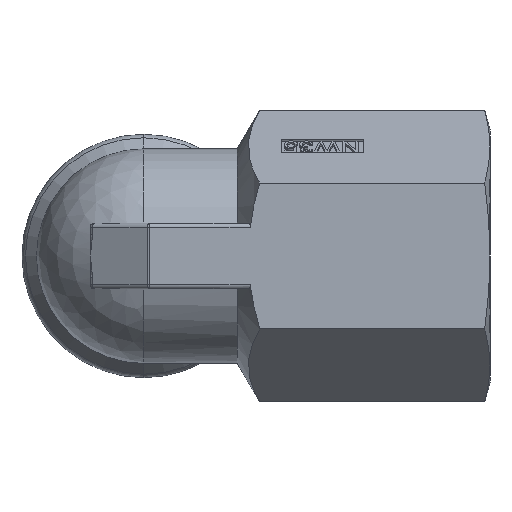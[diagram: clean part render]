
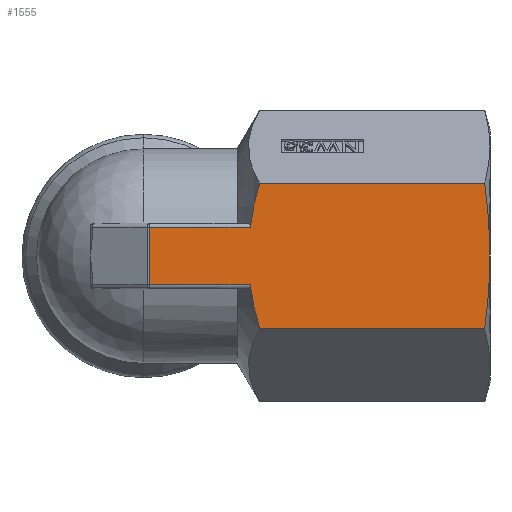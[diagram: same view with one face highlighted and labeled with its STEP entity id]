
A CAD part, left-side view. The second image highlights one B-rep face of the part: STEP entity #1555.
In plain terms, the highlighted planar face has unit normal (-1, 0, 0).
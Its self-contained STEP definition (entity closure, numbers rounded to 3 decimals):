
#4 = CARTESIAN_POINT ( 'NONE',  ( -23., -62.047, 13.279 ) ) ;
#100 = CARTESIAN_POINT ( 'NONE',  ( -23., -20.312, 10.636 ) ) ;
#130 = VERTEX_POINT ( 'NONE', #488 ) ;
#166 = EDGE_CURVE ( 'NONE', #3241, #6302, #4041, .T. ) ;
#351 = CARTESIAN_POINT ( 'NONE',  ( -23., -21.075, -13.279 ) ) ;
#402 = CARTESIAN_POINT ( 'NONE',  ( -23., -1.052, -5.2 ) ) ;
#446 = DIRECTION ( 'NONE',  ( 0., -1., 0. ) ) ;
#488 = CARTESIAN_POINT ( 'NONE',  ( -23., -1.052, 5.2 ) ) ;
#513 = EDGE_CURVE ( 'NONE', #4640, #6480, #2672, .T. ) ;
#590 = CARTESIAN_POINT ( 'NONE',  ( -23., -62.584, -8.852 ) ) ;
#626 = CARTESIAN_POINT ( 'NONE',  ( -23., -63., -2.21 ) ) ;
#710 = VERTEX_POINT ( 'NONE', #1622 ) ;
#712 = CARTESIAN_POINT ( 'NONE',  ( -23., -21.075, 13.279 ) ) ;
#791 = CARTESIAN_POINT ( 'NONE',  ( -23., -21.075, -13.279 ) ) ;
#796 = VERTEX_POINT ( 'NONE', #1170 ) ;
#831 = EDGE_CURVE ( 'NONE', #6086, #710, #1062, .T. ) ;
#854 = EDGE_CURVE ( 'NONE', #6086, #130, #1013, .T. ) ;
#1007 = B_SPLINE_CURVE_WITH_KNOTS ( 'NONE', 3,
 ( #791, #1829, #4370, #1642, #5300, #5963, #2846, #6440 ),
 .UNSPECIFIED., .F., .F.,
 ( 4, 2, 2, 4 ),
 ( 0.024, 0.026, 0.028, 0.033 ),
 .UNSPECIFIED. ) ;
#1013 = LINE ( 'NONE', #1265, #2546 ) ;
#1062 = B_SPLINE_CURVE_WITH_KNOTS ( 'NONE', 3,
 ( #3303, #1152, #100, #712 ),
 .UNSPECIFIED., .F., .F.,
 ( 4, 4 ),
 ( 0.043, 0.051 ),
 .UNSPECIFIED. ) ;
#1140 = CARTESIAN_POINT ( 'NONE',  ( -23., -62.583, 8.859 ) ) ;
#1152 = CARTESIAN_POINT ( 'NONE',  ( -23., -19.706, 7.952 ) ) ;
#1170 = CARTESIAN_POINT ( 'NONE',  ( -23., -19.356, -5.2 ) ) ;
#1189 = CARTESIAN_POINT ( 'NONE',  ( -23., -62.913, -4.423 ) ) ;
#1265 = CARTESIAN_POINT ( 'NONE',  ( -23., -0.837, 5.2 ) ) ;
#1289 = ORIENTED_EDGE ( 'NONE', *, *, #3501, .T. ) ;
#1329 = VECTOR ( 'NONE', #446, 1000. ) ;
#1517 = EDGE_LOOP ( 'NONE', ( #4470, #3834, #1289, #4883, #6492, #2341, #1866, #3738, #5565 ) ) ;
#1555 = ADVANCED_FACE ( 'NONE', ( #5728 ), #3979, .F. ) ;
#1622 = CARTESIAN_POINT ( 'NONE',  ( -23., -21.075, 13.279 ) ) ;
#1642 = CARTESIAN_POINT ( 'NONE',  ( -23., -20.362, -10.613 ) ) ;
#1677 = CARTESIAN_POINT ( 'NONE',  ( -23., -19.356, 5.2 ) ) ;
#1794 = CARTESIAN_POINT ( 'NONE',  ( -23., -62.047, -13.279 ) ) ;
#1829 = CARTESIAN_POINT ( 'NONE',  ( -23., -20.884, -12.618 ) ) ;
#1843 = DIRECTION ( 'NONE',  ( 1., 0., 0. ) ) ;
#1866 = ORIENTED_EDGE ( 'NONE', *, *, #4816, .F. ) ;
#2106 = CARTESIAN_POINT ( 'NONE',  ( -23., -62.047, 13.279 ) ) ;
#2341 = ORIENTED_EDGE ( 'NONE', *, *, #166, .F. ) ;
#2389 = DIRECTION ( 'NONE',  ( 0., 1., 0. ) ) ;
#2546 = VECTOR ( 'NONE', #2389, 1000. ) ;
#2604 = CARTESIAN_POINT ( 'NONE',  ( -23., -62.343, 11.07 ) ) ;
#2663 = CARTESIAN_POINT ( 'NONE',  ( -23., -62.047, -13.279 ) ) ;
#2672 = B_SPLINE_CURVE_WITH_KNOTS ( 'NONE', 3,
 ( #2106, #2604, #1140, #6292, #6250, #6314 ),
 .UNSPECIFIED., .F., .F.,
 ( 4, 2, 4 ),
 ( 0.053, 0.059, 0.066 ),
 .UNSPECIFIED. ) ;
#2749 = VERTEX_POINT ( 'NONE', #402 ) ;
#2846 = CARTESIAN_POINT ( 'NONE',  ( -23., -19.529, -6.56 ) ) ;
#2959 = VECTOR ( 'NONE', #5503, 1000. ) ;
#3049 = CARTESIAN_POINT ( 'NONE',  ( -23., -63., 13.279 ) ) ;
#3060 = CARTESIAN_POINT ( 'NONE',  ( -23., -1.052, -6. ) ) ;
#3109 = B_SPLINE_CURVE_WITH_KNOTS ( 'NONE', 3,
 ( #5773, #626, #1189, #590, #4275, #2663 ),
 .UNSPECIFIED., .F., .F.,
 ( 4, 2, 4 ),
 ( 0.066, 0.073, 0.079 ),
 .UNSPECIFIED. ) ;
#3241 = VERTEX_POINT ( 'NONE', #1794 ) ;
#3303 = CARTESIAN_POINT ( 'NONE',  ( -23., -19.356, 5.2 ) ) ;
#3402 = DIRECTION ( 'NONE',  ( 0., 0., -1. ) ) ;
#3431 = CARTESIAN_POINT ( 'NONE',  ( -23., -63., 13.279 ) ) ;
#3438 = VECTOR ( 'NONE', #6214, 1000. ) ;
#3453 = EDGE_CURVE ( 'NONE', #2749, #796, #6359, .T. ) ;
#3491 = CARTESIAN_POINT ( 'NONE',  ( -23., -63., -13.279 ) ) ;
#3501 = EDGE_CURVE ( 'NONE', #130, #2749, #4431, .T. ) ;
#3738 = ORIENTED_EDGE ( 'NONE', *, *, #513, .F. ) ;
#3834 = ORIENTED_EDGE ( 'NONE', *, *, #854, .T. ) ;
#3979 = PLANE ( 'NONE',  #6517 ) ;
#4041 = LINE ( 'NONE', #3491, #2959 ) ;
#4115 = VECTOR ( 'NONE', #6205, 1000. ) ;
#4275 = CARTESIAN_POINT ( 'NONE',  ( -23., -62.342, -11.072 ) ) ;
#4370 = CARTESIAN_POINT ( 'NONE',  ( -23., -20.703, -11.952 ) ) ;
#4431 = LINE ( 'NONE', #3060, #4115 ) ;
#4470 = ORIENTED_EDGE ( 'NONE', *, *, #831, .F. ) ;
#4640 = VERTEX_POINT ( 'NONE', #4 ) ;
#4653 = CARTESIAN_POINT ( 'NONE',  ( -23., -63., 0. ) ) ;
#4669 = CARTESIAN_POINT ( 'NONE',  ( -23., -63., -5.2 ) ) ;
#4816 = EDGE_CURVE ( 'NONE', #6480, #3241, #3109, .T. ) ;
#4883 = ORIENTED_EDGE ( 'NONE', *, *, #3453, .T. ) ;
#4982 = EDGE_CURVE ( 'NONE', #6302, #796, #1007, .T. ) ;
#5191 = EDGE_CURVE ( 'NONE', #4640, #710, #5307, .T. ) ;
#5300 = CARTESIAN_POINT ( 'NONE',  ( -23., -20.203, -9.939 ) ) ;
#5307 = LINE ( 'NONE', #3049, #3438 ) ;
#5503 = DIRECTION ( 'NONE',  ( 0., 1., 0. ) ) ;
#5565 = ORIENTED_EDGE ( 'NONE', *, *, #5191, .T. ) ;
#5728 = FACE_OUTER_BOUND ( 'NONE', #1517, .T. ) ;
#5773 = CARTESIAN_POINT ( 'NONE',  ( -23., -63., 0. ) ) ;
#5963 = CARTESIAN_POINT ( 'NONE',  ( -23., -19.766, -7.914 ) ) ;
#6086 = VERTEX_POINT ( 'NONE', #1677 ) ;
#6205 = DIRECTION ( 'NONE',  ( 0., 0., -1. ) ) ;
#6214 = DIRECTION ( 'NONE',  ( 0., 1., 0. ) ) ;
#6250 = CARTESIAN_POINT ( 'NONE',  ( -23., -63., 2.218 ) ) ;
#6292 = CARTESIAN_POINT ( 'NONE',  ( -23., -62.912, 4.433 ) ) ;
#6302 = VERTEX_POINT ( 'NONE', #351 ) ;
#6314 = CARTESIAN_POINT ( 'NONE',  ( -23., -63., 0. ) ) ;
#6359 = LINE ( 'NONE', #4669, #1329 ) ;
#6440 = CARTESIAN_POINT ( 'NONE',  ( -23., -19.356, -5.2 ) ) ;
#6480 = VERTEX_POINT ( 'NONE', #4653 ) ;
#6492 = ORIENTED_EDGE ( 'NONE', *, *, #4982, .F. ) ;
#6517 = AXIS2_PLACEMENT_3D ( 'NONE', #3431, #1843, #3402 ) ;
